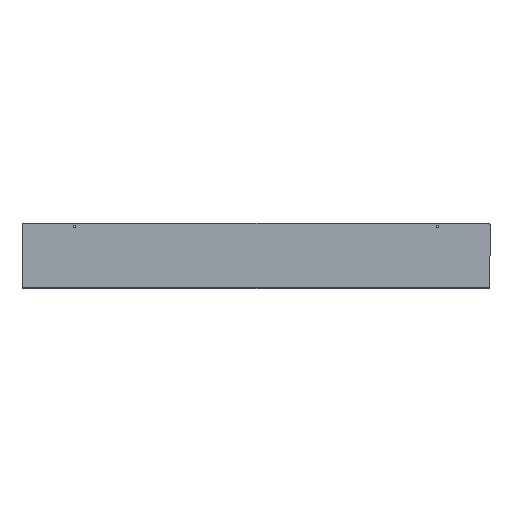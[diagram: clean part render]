
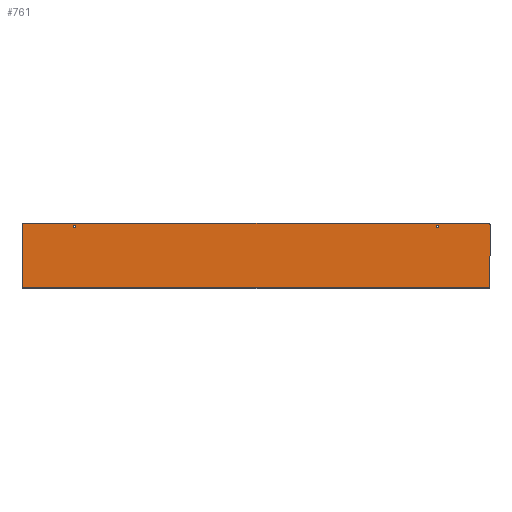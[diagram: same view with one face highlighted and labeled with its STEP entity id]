
A CAD part, top view. The second image highlights one B-rep face of the part: STEP entity #761.
In plain terms, the highlighted planar face has unit normal (0, 0, 1).
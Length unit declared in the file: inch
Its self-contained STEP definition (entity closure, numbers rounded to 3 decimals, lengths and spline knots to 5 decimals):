
#163=CARTESIAN_POINT('',(17.625,2.5,0.055));
#164=VERTEX_POINT('',#163);
#165=CARTESIAN_POINT('',(17.75,2.375,0.055));
#166=VERTEX_POINT('',#165);
#167=CARTESIAN_POINT('',(17.625,2.375,0.055));
#168=DIRECTION('',(0.0,0.0,-1.0));
#169=DIRECTION('',(0.707,0.707,0.0));
#170=AXIS2_PLACEMENT_3D('',#167,#168,#169);
#171=CIRCLE('',#170,0.125);
#172=EDGE_CURVE('',#164,#166,#171,.T.);
#214=CARTESIAN_POINT('',(-17.625,2.5,0.055));
#215=VERTEX_POINT('',#214);
#222=CARTESIAN_POINT('',(-17.625,2.5,0.055));
#223=DIRECTION('',(1.0,0.0,0.0));
#224=VECTOR('',#223,35.25);
#225=LINE('',#222,#224);
#226=EDGE_CURVE('',#215,#164,#225,.T.);
#299=CARTESIAN_POINT('',(-17.75,2.375,0.055));
#300=VERTEX_POINT('',#299);
#301=CARTESIAN_POINT('',(-17.625,2.375,0.055));
#302=DIRECTION('',(0.0,0.0,-1.0));
#303=DIRECTION('',(-0.707,0.707,0.0));
#304=AXIS2_PLACEMENT_3D('',#301,#302,#303);
#305=CIRCLE('',#304,0.125);
#306=EDGE_CURVE('',#300,#215,#305,.T.);
#326=CARTESIAN_POINT('',(-17.75,-2.414,0.055));
#327=VERTEX_POINT('',#326);
#334=CARTESIAN_POINT('',(-17.75,-2.414,0.055));
#335=DIRECTION('',(0.0,1.0,0.0));
#336=VECTOR('',#335,4.789);
#337=LINE('',#334,#336);
#338=EDGE_CURVE('',#327,#300,#337,.T.);
#558=CARTESIAN_POINT('',(-13.8385,2.25,0.055));
#559=VERTEX_POINT('',#558);
#560=CARTESIAN_POINT('',(-13.75,2.25,0.055));
#561=DIRECTION('',(0.0,0.0,-1.0));
#562=DIRECTION('',(1.0,0.0,0.0));
#563=AXIS2_PLACEMENT_3D('',#560,#561,#562);
#564=CIRCLE('',#563,0.0885);
#565=EDGE_CURVE('',#559,#559,#564,.T.);
#578=CARTESIAN_POINT('',(13.6615,2.25,0.055));
#579=VERTEX_POINT('',#578);
#580=CARTESIAN_POINT('',(13.75,2.25,0.055));
#581=DIRECTION('',(0.0,0.0,-1.0));
#582=DIRECTION('',(1.0,0.0,0.0));
#583=AXIS2_PLACEMENT_3D('',#580,#581,#582);
#584=CIRCLE('',#583,0.0885);
#585=EDGE_CURVE('',#579,#579,#584,.T.);
#647=CARTESIAN_POINT('',(17.75,-2.414,0.055));
#648=VERTEX_POINT('',#647);
#715=CARTESIAN_POINT('',(-17.75,-2.414,0.055));
#716=DIRECTION('',(1.0,0.0,0.0));
#717=VECTOR('',#716,35.5);
#718=LINE('',#715,#717);
#719=EDGE_CURVE('',#327,#648,#718,.T.);
#731=CARTESIAN_POINT('',(17.75,2.375,0.055));
#732=DIRECTION('',(0.0,-1.0,0.0));
#733=VECTOR('',#732,4.789);
#734=LINE('',#731,#733);
#735=EDGE_CURVE('',#166,#648,#734,.T.);
#742=CARTESIAN_POINT('',(0.,0.,0.055));
#743=DIRECTION('',(0.0,0.0,1.0));
#744=DIRECTION('',(1.0,0.0,0.0));
#745=AXIS2_PLACEMENT_3D('',#742,#743,#744);
#746=PLANE('',#745);
#747=ORIENTED_EDGE('',*,*,#172,.F.);
#748=ORIENTED_EDGE('',*,*,#226,.F.);
#749=ORIENTED_EDGE('',*,*,#306,.F.);
#750=ORIENTED_EDGE('',*,*,#338,.F.);
#751=ORIENTED_EDGE('',*,*,#719,.T.);
#752=ORIENTED_EDGE('',*,*,#735,.F.);
#753=EDGE_LOOP('',(#747,#748,#749,#750,#751,#752));
#754=FACE_OUTER_BOUND('',#753,.T.);
#755=ORIENTED_EDGE('',*,*,#565,.T.);
#756=EDGE_LOOP('',(#755));
#757=FACE_BOUND('',#756,.T.);
#758=ORIENTED_EDGE('',*,*,#585,.T.);
#759=EDGE_LOOP('',(#758));
#760=FACE_BOUND('',#759,.T.);
#761=ADVANCED_FACE('',(#754,#757,#760),#746,.T.);
